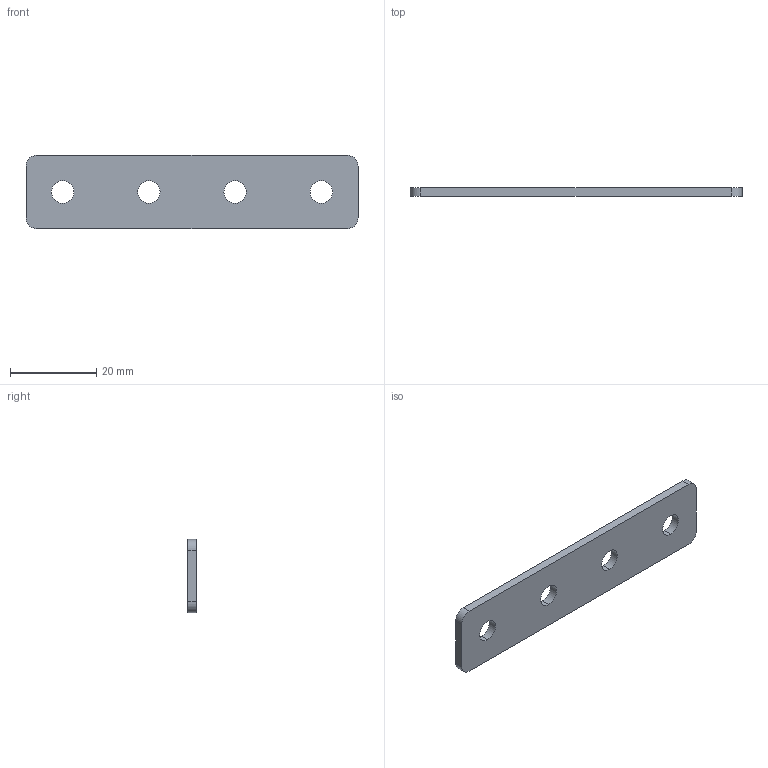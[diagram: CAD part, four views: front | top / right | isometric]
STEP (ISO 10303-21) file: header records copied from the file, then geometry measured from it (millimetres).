
FILE_DESCRIPTION (( 'STEP AP203' ), '1' );
FILE_NAME ('ﾏ-4-20.STEP', '2016-07-23T14:45:40', ( '' ), ( '' ), 'SwSTEP 2.0', 'SolidWorks 2014', '' );
FILE_SCHEMA (( 'CONFIG_CONTROL_DESIGN' ));
Length unit declared in the file: millimetre
Products named in the file (1): ﾏ-4-20
Bounding box: 77 x 2 x 17 mm (x, y, z)
Surface area: 2935.5 mm2 (no closed solid volume)
Topology: 0 solids, 1 shells, 18 faces, 48 edges, 32 vertices
Faces by surface type: cylinder 12, plane 6
Entity records: 669 total; most frequent: DIRECTION 110, CARTESIAN_POINT 99, ORIENTED_EDGE 96, EDGE_CURVE 48, AXIS2_PLACEMENT_3D 43, VERTEX_POINT 32, EDGE_LOOP 26, CIRCLE 24
